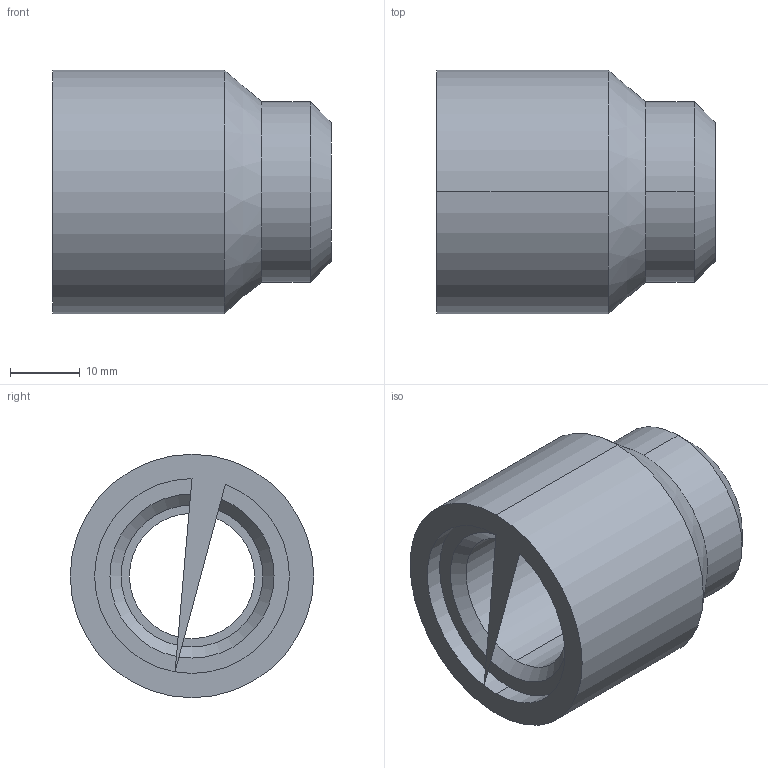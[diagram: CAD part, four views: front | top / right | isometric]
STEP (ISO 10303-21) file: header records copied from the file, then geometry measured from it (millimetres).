
FILE_DESCRIPTION(('TFLEX Exchange Step'),'2;1');
FILE_NAME('X2\0411043E0431044B0448043A0430\X0\ БП-М22-М01.stp', '2020-10-13T20:47:54+05:00',('Alex'),('Unknown organisation'),'TFLEX Exchange 2019.1','T-FLEX CAD','Unknown authorisation');
FILE_SCHEMA( ('AUTOMOTIVE_DESIGN { 1 0 10303 214 1 1 1 1 }') );
Length unit declared in the file: millimetre
Products named in the file (1): Бобышка БП-М22-М01
Bounding box: 40 x 35 x 35 mm (x, y, z)
Volume: 20330.1 mm3; surface area: 7426.1 mm2
Topology: 1 solids, 1 shells, 17 faces, 39 edges, 22 vertices
Faces by surface type: cylinder 10, plane 4, cone 3
Entity records: 507 total; most frequent: DIRECTION 97, CARTESIAN_POINT 79, ORIENTED_EDGE 78, AXIS2_PLACEMENT_3D 40, EDGE_CURVE 39, VERTEX_POINT 22, CIRCLE 22, VECTOR 17
